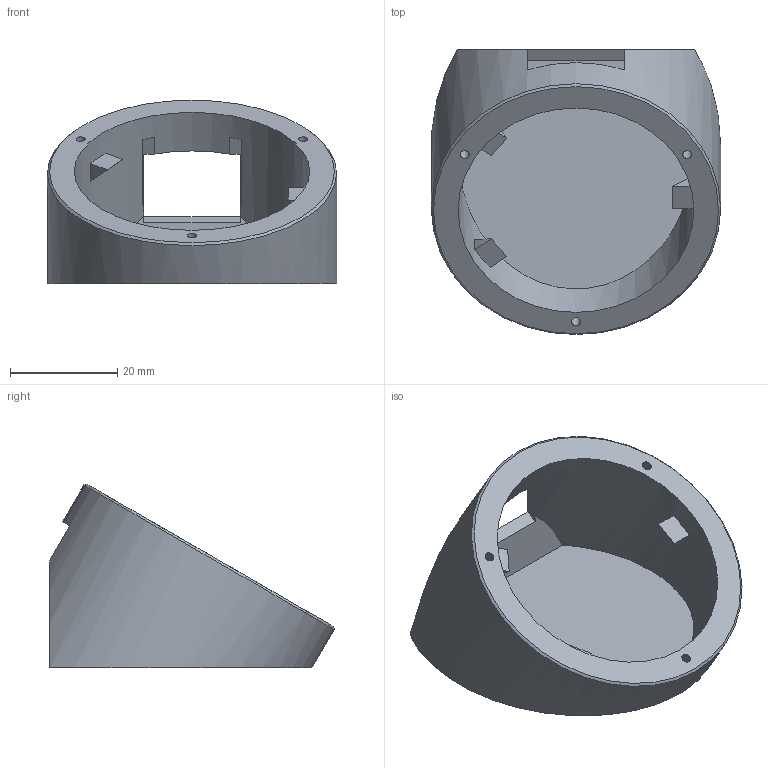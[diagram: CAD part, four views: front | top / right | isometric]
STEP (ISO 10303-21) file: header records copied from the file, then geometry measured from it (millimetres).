
FILE_DESCRIPTION(('Open CASCADE Model'),'2;1');
FILE_NAME('Open CASCADE Shape Model','2026-11-04T17:11:09',('Author'),( 'Open CASCADE'),'Open CASCADE STEP processor 7.9','Open CASCADE 7.9' ,'Unknown');
FILE_SCHEMA(('AUTOMOTIVE_DESIGN { 1 0 10303 214 1 1 1 1 }'));
Length unit declared in the file: millimetre
Products named in the file (1): Open CASCADE STEP translator 7.9 1
Bounding box: 54 x 53.18 x 34.3 mm (x, y, z)
Volume: 19070.8 mm3; surface area: 11318.1 mm2
Topology: 1 solids, 1 shells, 38 faces, 95 edges, 63 vertices
Faces by surface type: plane 32, cylinder 5, cone 1
Full cylindrical faces by diameter (mm): 1.7 x3, 44 x1, 54 x1
Entity records: 2551 total; most frequent: CARTESIAN_POINT 713, DIRECTION 316, ORIENTED_EDGE 190, PCURVE 190, DEFINITIONAL_REPRESENTATION 190, LINE 156, VECTOR 156, EDGE_CURVE 95
